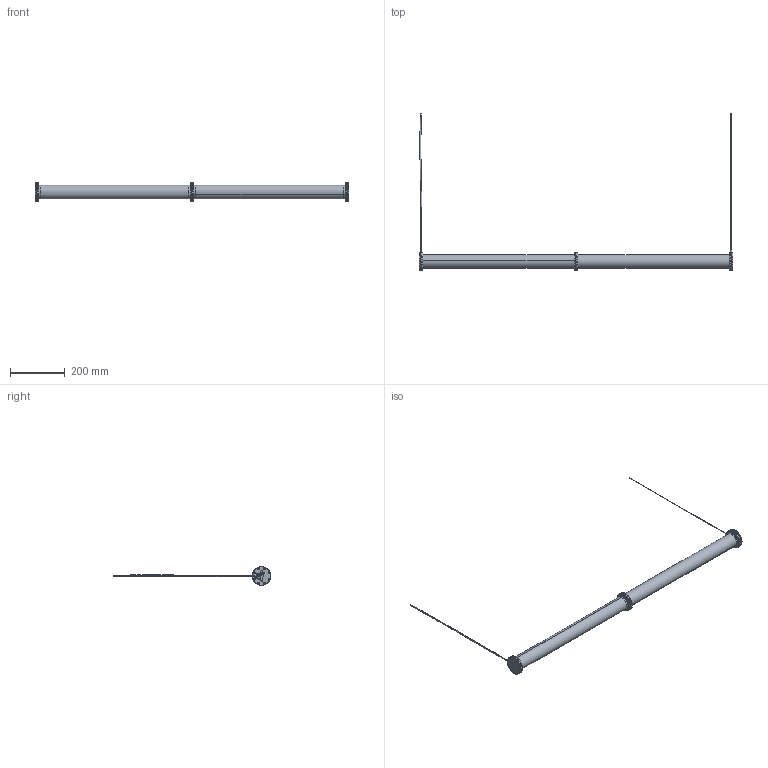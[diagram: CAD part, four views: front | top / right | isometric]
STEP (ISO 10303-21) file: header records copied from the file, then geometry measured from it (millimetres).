
FILE_DESCRIPTION (( 'STEP AP203' ), '1' );
FILE_NAME ('FBN05.LS05.AF01.R00 Render.STEP', '2025-05-05T14:48:14', ( '' ), ( '' ), 'SwSTEP 2.0', 'SolidWorks 2024', '' );
FILE_SCHEMA (( 'CONFIG_CONTROL_DESIGN' ));
Length unit declared in the file: millimetre
Products named in the file (15): FBN05.LS05.AF01.R00 Render; FBN05.LS03.C009.R10; FBN05.LS03.C098.R00; FBN05.LS03.C007.R10; FBN05.LS05.C001.R00; FBN05.LS03.C015.R10; FBN05.LS03.C003.R10; FBN05.LS03.C010.R10; FBN05.LS03.C099.R10; FBN05.LS03.C011.R10; FBN05.LS03.C014.R10; FBN05.LS03.C012.R10; FBN05.LS03.C002.R10; FBN05.LS03.C006.R10; FBN05.LS03.C001.R10
Assembly tree (71 placements, depth 2):
  FBN05.LS05.AF01.R00 Render
    FBN05.LS05.C001.R00
    FBN05.LS03.C015.R10  x2
    FBN05.LS03.C001.R10  x2
    FBN05.LS03.C011.R10
    FBN05.LS03.C009.R10  x2
    FBN05.LS03.C010.R10
    FBN05.LS03.C002.R10
    FBN05.LS03.C014.R10  x48
    FBN05.LS03.C007.R10  x4
    FBN05.LS03.C003.R10  x2
    FBN05.LS03.C006.R10  x4
    FBN05.LS03.C012.R10
    FBN05.LS03.C098.R00
    FBN05.LS03.C099.R10
Bounding box: 1141 x 574.07 x 67.94 mm (x, y, z)
Volume: 590876.6 mm3; surface area: 562265.4 mm2
Topology: 71 solids, 71 shells, 1705 faces, 4051 edges, 2533 vertices
Faces by surface type: cylinder 802, plane 455, cone 236, sphere 194, torus 12, bspline 6
Entity records: 18191 total; most frequent: CARTESIAN_POINT 3401, DIRECTION 2746, ORIENTED_EDGE 2208, AXIS2_PLACEMENT_3D 1140, EDGE_CURVE 1104, VERTEX_POINT 717, CIRCLE 630, EDGE_LOOP 613
